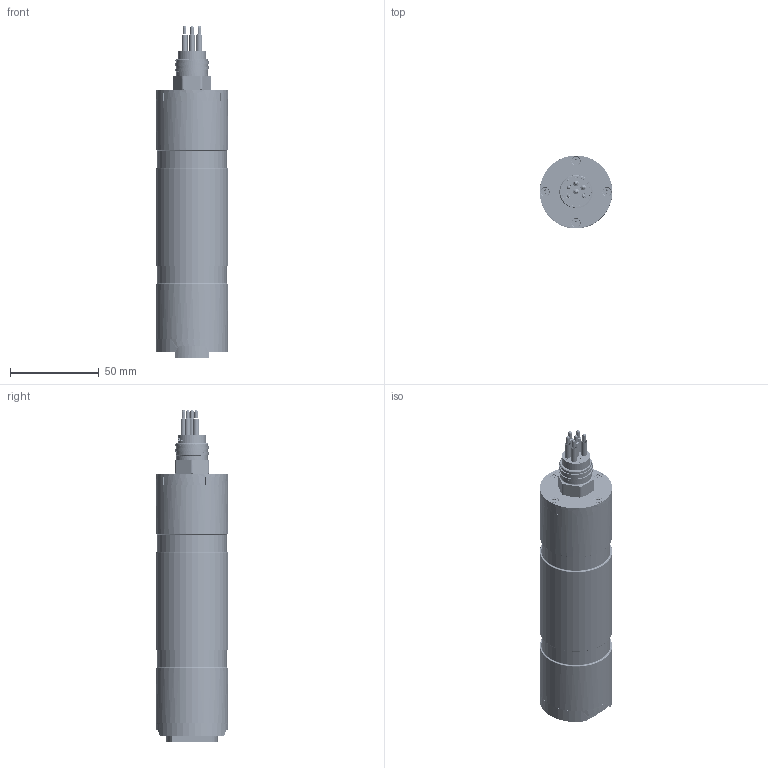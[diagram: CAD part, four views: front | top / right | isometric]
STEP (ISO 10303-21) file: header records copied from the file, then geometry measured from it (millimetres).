
FILE_DESCRIPTION(/* description */ (''),/* implementation_level */ '2;1');
FILE_NAME(/* name */ 'OC1250 CAD 27-3-23.step',/* time_stamp */ '2023-03-27T15:11:23+01:00',/* author */ (''),/* organization */ (''),/* preprocessor_version */ 'ST-DEVELOPER v19.2',/* originating_system */ 'Autodesk Translation Framework v11.17.0.187',/* authorisation */ '');
FILE_SCHEMA (('AUTOMOTIVE_DESIGN { 1 0 10303 214 3 1 1 }'));
Products named in the file (67): OC1250 CAD; CLP; Driver PCB; MB -OC1250; ICNCC - OC120; BE - OC1250; FS5 TDRS PCB; Component71; FS5-15-04.0-TH_socket; C-304-15; _CLM-113-02-L-D_socket (3); _C-13-02_pins (3); Interface PCB; FTMH-113-02-L-DH_body (1); FTMH-113-02-L-DH_pins1 (1); TRDS - OC300; Internal Screws; DP Grub M4 20mm; DP Grub M4 20mm (3); DP Grub M4 20mm (4); DP Grub M4 20mm (9); DP Grub M3 8mm (2); DP Grub M4 20mm (11); DP Grub M4 20mm (1); DP Grub M3 8mm; DP Grub M4 20mm (13); DP Grub M4 20mm (8); DP Grub M4 20mm (14); DP Grub M4 20mm (10); DP Grub M3 8mm (3); DP Grub M4 20mm (15); DP Grub M3 8mm (1); DP Grub M4 20mm (6); DP Grub M4 20mm (12); DP Grub M4 20mm (5); DP Grub M4 20mm (7); DP Grub M4 20mm (2); DP Grub M4 20mm (17); DP Grub M4 20mm (16); Active Electrodes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
Assembly tree (71 placements, depth 6):
  OC1250 CAD
    CLP
    Driver PCB
    MB -OC1250
    ICNCC - OC120
    BE - OC1250
    FS5 TDRS PCB
      Component71
      FS5-15-04.0-TH_socket
        C-304-15
      _CLM-113-02-L-D_socket (3)
        _C-13-02_pins (3)
    Interface PCB
      FTMH-113-02-L-DH_body (1)
        FTMH-113-02-L-DH_pins1 (1)
    TRDS - OC300
      Internal Screws
        DP Grub M4 20mm
        DP Grub M4 20mm (3)
        DP Grub M4 20mm (4)
        DP Grub M4 20mm (9)
        DP Grub M3 8mm (2)
        DP Grub M4 20mm (11)
        DP Grub M4 20mm (1)
        DP Grub M3 8mm
        DP Grub M4 20mm (13)
        DP Grub M4 20mm (8)
        DP Grub M4 20mm (14)
        DP Grub M4 20mm (10)
        DP Grub M3 8mm (3)
        DP Grub M4 20mm (15)
        DP Grub M3 8mm (1)
        DP Grub M4 20mm (6)
        DP Grub M4 20mm (12)
        DP Grub M4 20mm (5)
        DP Grub M4 20mm (7)
        DP Grub M4 20mm (2)
        DP Grub M4 20mm (17)
        DP Grub M4 20mm (16)
      Active Electrodes
      Reference System 
      ANB TRDS PCB
        TRDS PCB & Screws
          TRDS Assembled PCB1&2
            TRDS PCB2
          External Screws 
            No.2 Self tapping 
            No.2 Self tapping  (1)
            No.2 Self tapping  (2)
            No.2 Self tapping  (1) (1)
        FT5-15-01.0-TH_teminal
          T-1M84-15-01.0
    Fasteners
      93655A092_Male-Female Threaded Hex Standoff (3)
      93655A092_Male-Female Threaded Hex Standoff (1) (2)
      92095A458_Button Head Hex Drive Screw (2) (1)
      92095A458_Button Head Hex Drive Screw (3)
      92095A458_Button Head Hex Drive Screw (1) (2)
      93655A092_Male-Female Threaded Hex Standoff (1) (1) (1)
      92095A458_Button Head Hex Drive Screw (1) (1) (1)
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Bounding box: 41 x 41 x 187.55 mm (x, y, z)
Volume: 142092.8 mm3; surface area: 86324.4 mm2
Topology: 110 solids, 111 shells, 6895 faces, 18949 edges, 12335 vertices
Faces by surface type: plane 4718, cylinder 1416, cone 485, bspline 239, torus 27, sphere 10
Full cylindrical faces by diameter (mm): 0.5 x4, 0.73 x4, 0.737 x21, 0.83 x4, 1.32 x2, 1.332 x40, 1.45 x4, 1.5 x8, 1.575 x6, 1.9 x4, 1.91 x4, 1.915 x92, 1.986 x6, 2 x4, 2.075 x24, 2.175 x6, 2.184 x32, 2.3 x36, 2.5 x116, 2.529 x15, 2.58 x22, 2.6 x38, 2.75 x2, 2.8 x4, 3 x4, 3.086 x10, 3.1 x4, 3.175 x6, 3.332 x18, 4 x18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
Entity records: 286355 total; most frequent: CARTESIAN_POINT 113476, ORIENTED_EDGE 37174, DIRECTION 33013, EDGE_CURVE 18587, LINE 13849, VECTOR 13849, VERTEX_POINT 12115, AXIS2_PLACEMENT_3D 9582
